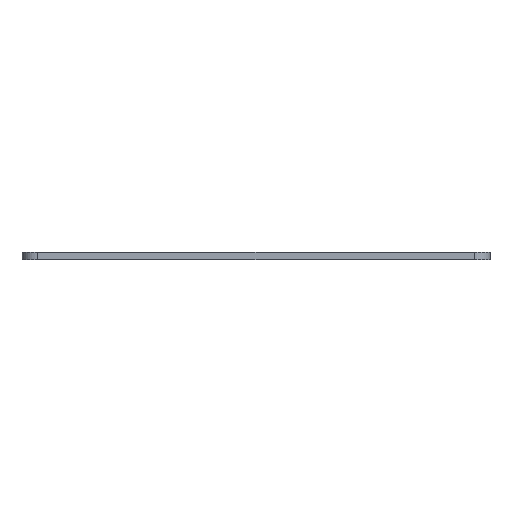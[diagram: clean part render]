
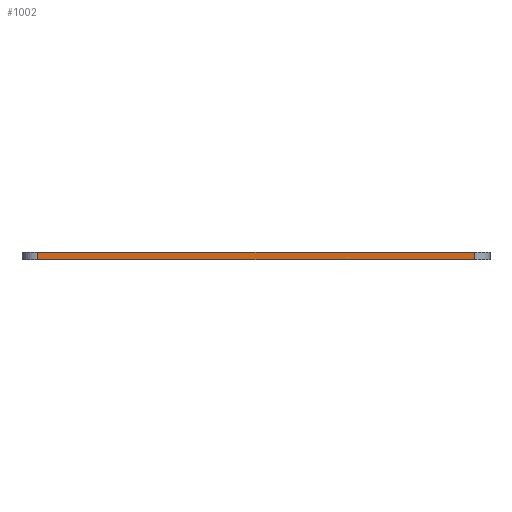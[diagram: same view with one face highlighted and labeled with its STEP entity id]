
A CAD part, front view. The second image highlights one B-rep face of the part: STEP entity #1002.
In plain terms, the highlighted planar face has unit normal (0, -1, 0).
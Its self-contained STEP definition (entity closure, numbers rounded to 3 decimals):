
#44 = CYLINDRICAL_SURFACE('',#45,0.55);
#45 = AXIS2_PLACEMENT_3D('',#46,#47,#48);
#46 = CARTESIAN_POINT('',(-7.625,-18.913,-5.1));
#47 = DIRECTION('',(-0.,-0.,-1.));
#48 = DIRECTION('',(1.,0.,0.));
#72 = PLANE('',#73);
#73 = AXIS2_PLACEMENT_3D('',#74,#75,#76);
#74 = CARTESIAN_POINT('',(0.,-13.238,-4.85));
#75 = DIRECTION('',(0.,0.,1.));
#76 = DIRECTION('',(1.,0.,-0.));
#126 = PLANE('',#127);
#127 = AXIS2_PLACEMENT_3D('',#128,#129,#130);
#128 = CARTESIAN_POINT('',(0.,-13.238,-5.1));
#129 = DIRECTION('',(0.,0.,1.));
#130 = DIRECTION('',(1.,0.,-0.));
#142 = VERTEX_POINT('',#143);
#143 = CARTESIAN_POINT('',(-7.625,-19.463,-5.1));
#165 = EDGE_CURVE('',#142,#166,#168,.T.);
#166 = VERTEX_POINT('',#167);
#167 = CARTESIAN_POINT('',(-7.625,-19.463,-4.85));
#168 = SURFACE_CURVE('',#169,(#173,#180),.PCURVE_S1.);
#169 = LINE('',#170,#171);
#170 = CARTESIAN_POINT('',(-7.625,-19.463,-5.1));
#171 = VECTOR('',#172,1.);
#172 = DIRECTION('',(0.,0.,1.));
#173 = PCURVE('',#44,#174);
#174 = DEFINITIONAL_REPRESENTATION('',(#175),#179);
#175 = LINE('',#176,#177);
#176 = CARTESIAN_POINT('',(1.571,0.));
#177 = VECTOR('',#178,1.);
#178 = DIRECTION('',(-0.,-1.));
#179 = ( GEOMETRIC_REPRESENTATION_CONTEXT(2) 
PARAMETRIC_REPRESENTATION_CONTEXT() REPRESENTATION_CONTEXT('2D SPACE',''
  ) );
#180 = PCURVE('',#181,#186);
#181 = PLANE('',#182);
#182 = AXIS2_PLACEMENT_3D('',#183,#184,#185);
#183 = CARTESIAN_POINT('',(-7.625,-19.463,-5.1));
#184 = DIRECTION('',(0.,1.,0.));
#185 = DIRECTION('',(1.,0.,0.));
#186 = DEFINITIONAL_REPRESENTATION('',(#187),#191);
#187 = LINE('',#188,#189);
#188 = CARTESIAN_POINT('',(0.,0.));
#189 = VECTOR('',#190,1.);
#190 = DIRECTION('',(0.,-1.));
#191 = ( GEOMETRIC_REPRESENTATION_CONTEXT(2) 
PARAMETRIC_REPRESENTATION_CONTEXT() REPRESENTATION_CONTEXT('2D SPACE',''
  ) );
#299 = EDGE_CURVE('',#142,#300,#302,.T.);
#300 = VERTEX_POINT('',#301);
#301 = CARTESIAN_POINT('',(7.625,-19.463,-5.1));
#302 = SURFACE_CURVE('',#303,(#307,#314),.PCURVE_S1.);
#303 = LINE('',#304,#305);
#304 = CARTESIAN_POINT('',(0.,-19.463,-5.1));
#305 = VECTOR('',#306,1.);
#306 = DIRECTION('',(1.,0.,0.));
#307 = PCURVE('',#126,#308);
#308 = DEFINITIONAL_REPRESENTATION('',(#309),#313);
#309 = LINE('',#310,#311);
#310 = CARTESIAN_POINT('',(0.,-6.225));
#311 = VECTOR('',#312,1.);
#312 = DIRECTION('',(1.,0.));
#313 = ( GEOMETRIC_REPRESENTATION_CONTEXT(2) 
PARAMETRIC_REPRESENTATION_CONTEXT() REPRESENTATION_CONTEXT('2D SPACE',''
  ) );
#314 = PCURVE('',#181,#315);
#315 = DEFINITIONAL_REPRESENTATION('',(#316),#320);
#316 = LINE('',#317,#318);
#317 = CARTESIAN_POINT('',(7.625,0.));
#318 = VECTOR('',#319,1.);
#319 = DIRECTION('',(1.,0.));
#320 = ( GEOMETRIC_REPRESENTATION_CONTEXT(2) 
PARAMETRIC_REPRESENTATION_CONTEXT() REPRESENTATION_CONTEXT('2D SPACE',''
  ) );
#339 = CYLINDRICAL_SURFACE('',#340,0.55);
#340 = AXIS2_PLACEMENT_3D('',#341,#342,#343);
#341 = CARTESIAN_POINT('',(7.625,-18.913,-5.1));
#342 = DIRECTION('',(-0.,-0.,-1.));
#343 = DIRECTION('',(1.,0.,0.));
#681 = EDGE_CURVE('',#166,#682,#684,.T.);
#682 = VERTEX_POINT('',#683);
#683 = CARTESIAN_POINT('',(7.625,-19.463,-4.85));
#684 = SURFACE_CURVE('',#685,(#689,#696),.PCURVE_S1.);
#685 = LINE('',#686,#687);
#686 = CARTESIAN_POINT('',(0.,-19.463,-4.85));
#687 = VECTOR('',#688,1.);
#688 = DIRECTION('',(1.,0.,0.));
#689 = PCURVE('',#72,#690);
#690 = DEFINITIONAL_REPRESENTATION('',(#691),#695);
#691 = LINE('',#692,#693);
#692 = CARTESIAN_POINT('',(0.,-6.225));
#693 = VECTOR('',#694,1.);
#694 = DIRECTION('',(1.,0.));
#695 = ( GEOMETRIC_REPRESENTATION_CONTEXT(2) 
PARAMETRIC_REPRESENTATION_CONTEXT() REPRESENTATION_CONTEXT('2D SPACE',''
  ) );
#696 = PCURVE('',#181,#697);
#697 = DEFINITIONAL_REPRESENTATION('',(#698),#702);
#698 = LINE('',#699,#700);
#699 = CARTESIAN_POINT('',(7.625,-0.25));
#700 = VECTOR('',#701,1.);
#701 = DIRECTION('',(1.,0.));
#702 = ( GEOMETRIC_REPRESENTATION_CONTEXT(2) 
PARAMETRIC_REPRESENTATION_CONTEXT() REPRESENTATION_CONTEXT('2D SPACE',''
  ) );
#1002 = ADVANCED_FACE('',(#1003),#181,.F.);
#1003 = FACE_BOUND('',#1004,.F.);
#1004 = EDGE_LOOP('',(#1005,#1006,#1007,#1028));
#1005 = ORIENTED_EDGE('',*,*,#165,.T.);
#1006 = ORIENTED_EDGE('',*,*,#681,.T.);
#1007 = ORIENTED_EDGE('',*,*,#1008,.F.);
#1008 = EDGE_CURVE('',#300,#682,#1009,.T.);
#1009 = SURFACE_CURVE('',#1010,(#1014,#1021),.PCURVE_S1.);
#1010 = LINE('',#1011,#1012);
#1011 = CARTESIAN_POINT('',(7.625,-19.463,-5.1));
#1012 = VECTOR('',#1013,1.);
#1013 = DIRECTION('',(0.,0.,1.));
#1014 = PCURVE('',#181,#1015);
#1015 = DEFINITIONAL_REPRESENTATION('',(#1016),#1020);
#1016 = LINE('',#1017,#1018);
#1017 = CARTESIAN_POINT('',(15.25,0.));
#1018 = VECTOR('',#1019,1.);
#1019 = DIRECTION('',(0.,-1.));
#1020 = ( GEOMETRIC_REPRESENTATION_CONTEXT(2) 
PARAMETRIC_REPRESENTATION_CONTEXT() REPRESENTATION_CONTEXT('2D SPACE',''
  ) );
#1021 = PCURVE('',#339,#1022);
#1022 = DEFINITIONAL_REPRESENTATION('',(#1023),#1027);
#1023 = LINE('',#1024,#1025);
#1024 = CARTESIAN_POINT('',(1.571,0.));
#1025 = VECTOR('',#1026,1.);
#1026 = DIRECTION('',(-0.,-1.));
#1027 = ( GEOMETRIC_REPRESENTATION_CONTEXT(2) 
PARAMETRIC_REPRESENTATION_CONTEXT() REPRESENTATION_CONTEXT('2D SPACE',''
  ) );
#1028 = ORIENTED_EDGE('',*,*,#299,.F.);
